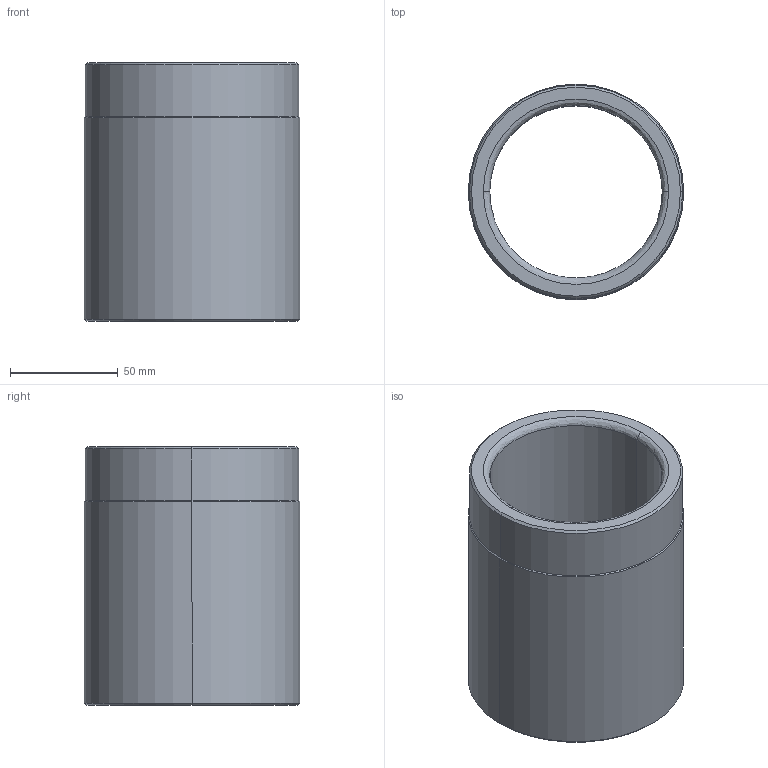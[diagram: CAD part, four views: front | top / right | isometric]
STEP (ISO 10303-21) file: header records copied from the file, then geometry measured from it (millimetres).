
FILE_DESCRIPTION((''),'2;1');
FILE_NAME('','2010-08-30T17:16:09+09:00',('misumi'),(''),'M/STEP i/f 1R2-14','CADmeister v5.1','');
FILE_SCHEMA(('AUTOMOTIVE_DESIGN'));
Length unit declared in the file: millimetre
Products named in the file (1): GBW80
Bounding box: 100 x 100 x 120 mm (x, y, z)
Volume: 331023.2 mm3; surface area: 72128.1 mm2
Topology: 1 solids, 1 shells, 20 faces, 40 edges, 22 vertices
Faces by surface type: cone 8, cylinder 6, revolution 4, plane 2
Entity records: 829 total; most frequent: DIRECTION 112, CARTESIAN_POINT 87, ORIENTED_EDGE 80, COLOUR_RGB 51, AXIS2_PLACEMENT_3D 47, CURVE_STYLE 46, PRESENTATION_STYLE_ASSIGNMENT 45, OVER_RIDING_STYLED_ITEM 44
